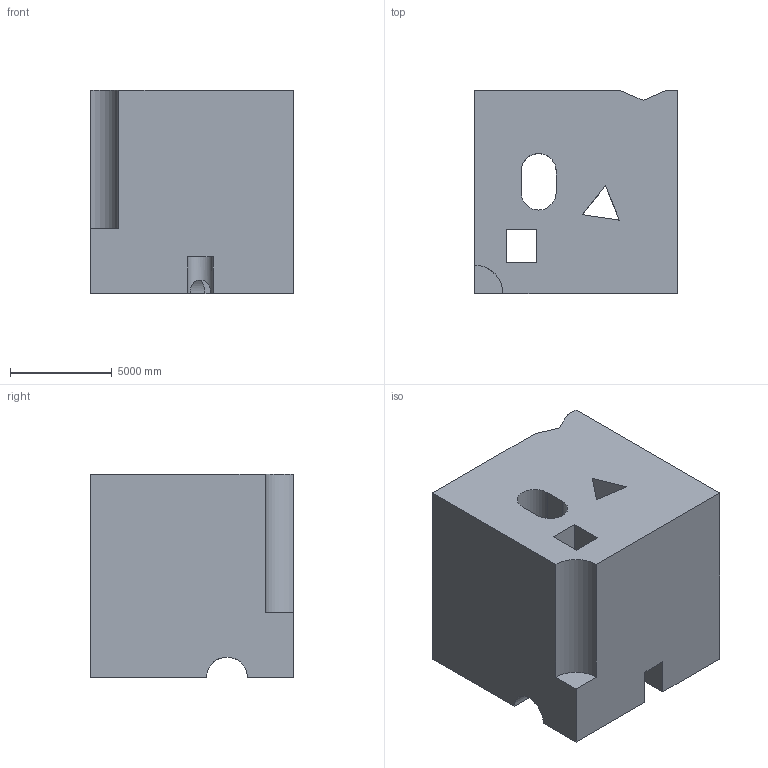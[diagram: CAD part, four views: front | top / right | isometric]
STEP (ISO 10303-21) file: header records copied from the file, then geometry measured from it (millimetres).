
FILE_DESCRIPTION (( 'STEP AP203' ), '1' );
FILE_NAME ('730.STEP', '2022-07-29T12:48:47', ( 'user' ), ( '' ), 'SwSTEP 2.0', 'SolidWorks 2021', '' );
FILE_SCHEMA (( 'CONFIG_CONTROL_DESIGN' ));
Length unit declared in the file: centimetre
Products named in the file (1): 730
Bounding box: 10000 x 10000 x 10000 mm (x, y, z)
Volume: 873233561209 mm3; surface area: 799515558.5 mm2
Topology: 1 solids, 1 shells, 37 faces, 114 edges, 76 vertices
Faces by surface type: plane 30, cylinder 7
Entity records: 1601 total; most frequent: CARTESIAN_POINT 487, ORIENTED_EDGE 228, DIRECTION 203, EDGE_CURVE 114, VECTOR 91, LINE 91, VERTEX_POINT 76, AXIS2_PLACEMENT_3D 56
